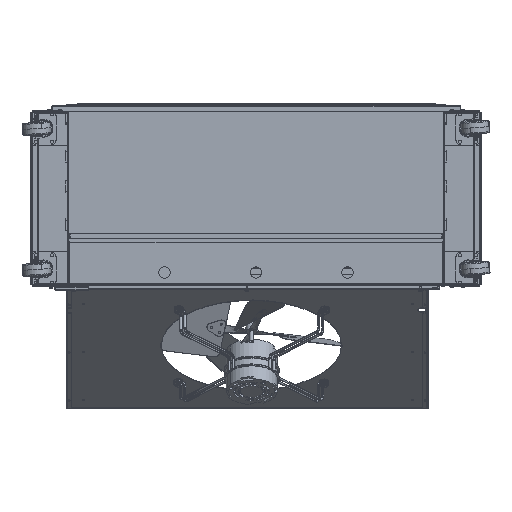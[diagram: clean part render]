
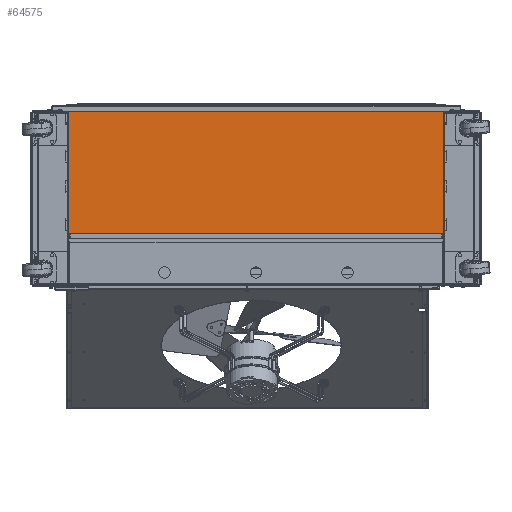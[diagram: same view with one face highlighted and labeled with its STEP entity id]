
A CAD part, front view. The second image highlights one B-rep face of the part: STEP entity #64575.
In plain terms, the highlighted planar face has unit normal (0, -1, 0) as drawn and (0, 0, 1) by its records, which use the part's own axes.
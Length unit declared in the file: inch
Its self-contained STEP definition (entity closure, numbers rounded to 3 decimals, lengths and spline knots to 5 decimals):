
#464 = DIRECTION ( 'NONE',  ( 0., 0., -1. ) ) ;
#2586 = EDGE_CURVE ( 'NONE', #94960, #78309, #48915, .T. ) ;
#4080 = VERTEX_POINT ( 'NONE', #17724 ) ;
#5167 = FACE_OUTER_BOUND ( 'NONE', #10583, .T. ) ;
#7026 = ORIENTED_EDGE ( 'NONE', *, *, #42338, .F. ) ;
#7304 = VECTOR ( 'NONE', #13056, 39.37008 ) ;
#10583 = EDGE_LOOP ( 'NONE', ( #39178, #73632, #7026, #67291 ) ) ;
#11617 = EDGE_CURVE ( 'NONE', #78309, #32716, #113508, .T. ) ;
#13056 = DIRECTION ( 'NONE',  ( 1., 0., 0. ) ) ;
#17724 = CARTESIAN_POINT ( 'NONE',  ( 13.35, 41., 0.5 ) ) ;
#19958 = CARTESIAN_POINT ( 'NONE',  ( 13.35, 0., 0.5 ) ) ;
#20178 = DIRECTION ( 'NONE',  ( 0., -1., 0. ) ) ;
#30480 = CARTESIAN_POINT ( 'NONE',  ( 0., 41., 0.5 ) ) ;
#31960 = CARTESIAN_POINT ( 'NONE',  ( 0., 0., 0.5 ) ) ;
#32716 = VERTEX_POINT ( 'NONE', #111250 ) ;
#34255 = LINE ( 'NONE', #91366, #78815 ) ;
#35842 = CARTESIAN_POINT ( 'NONE',  ( 0., 41., 0.5 ) ) ;
#39178 = ORIENTED_EDGE ( 'NONE', *, *, #2586, .F. ) ;
#41436 = CARTESIAN_POINT ( 'NONE',  ( 0., 41., 0.5 ) ) ;
#41866 = DIRECTION ( 'NONE',  ( -1., 0., 0. ) ) ;
#42338 = EDGE_CURVE ( 'NONE', #32716, #4080, #78229, .T. ) ;
#48915 = LINE ( 'NONE', #104178, #93501 ) ;
#62337 = PLANE ( 'NONE',  #109319 ) ;
#62725 = DIRECTION ( 'NONE',  ( -1., 0., 0. ) ) ;
#64575 = ADVANCED_FACE ( 'NONE', ( #5167 ), #62337, .F. ) ;
#67291 = ORIENTED_EDGE ( 'NONE', *, *, #11617, .F. ) ;
#71668 = VECTOR ( 'NONE', #103776, 39.37008 ) ;
#73632 = ORIENTED_EDGE ( 'NONE', *, *, #111673, .F. ) ;
#78229 = LINE ( 'NONE', #30480, #7304 ) ;
#78309 = VERTEX_POINT ( 'NONE', #31960 ) ;
#78815 = VECTOR ( 'NONE', #20178, 39.37008 ) ;
#91366 = CARTESIAN_POINT ( 'NONE',  ( 13.35, 41., 0.5 ) ) ;
#93501 = VECTOR ( 'NONE', #41866, 39.37008 ) ;
#94960 = VERTEX_POINT ( 'NONE', #19958 ) ;
#103776 = DIRECTION ( 'NONE',  ( 0., 1., 0. ) ) ;
#104178 = CARTESIAN_POINT ( 'NONE',  ( 0., 0., 0.5 ) ) ;
#109319 = AXIS2_PLACEMENT_3D ( 'NONE', #35842, #464, #62725 ) ;
#111250 = CARTESIAN_POINT ( 'NONE',  ( 0., 41., 0.5 ) ) ;
#111673 = EDGE_CURVE ( 'NONE', #4080, #94960, #34255, .T. ) ;
#113508 = LINE ( 'NONE', #41436, #71668 ) ;
